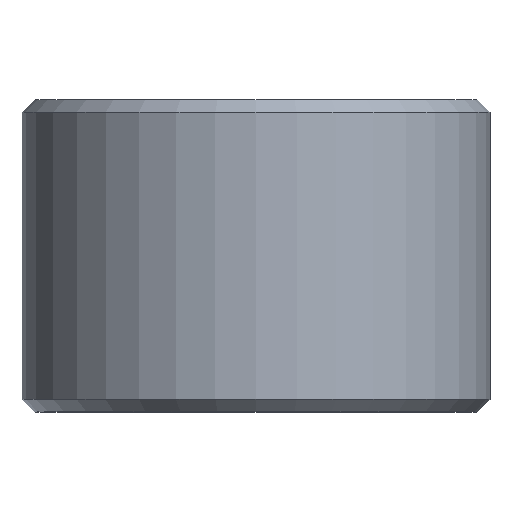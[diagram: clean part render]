
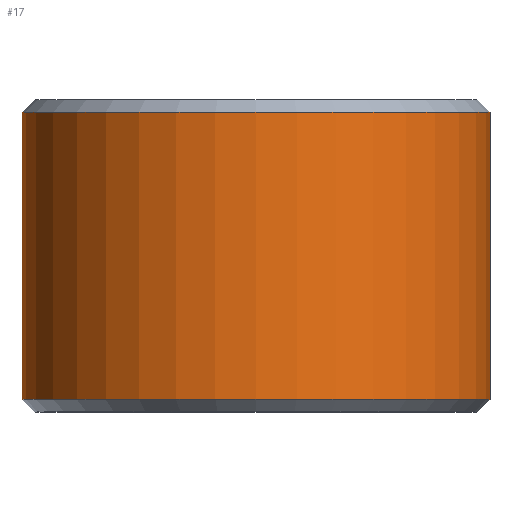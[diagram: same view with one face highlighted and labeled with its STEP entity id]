
A CAD part, top view. The second image highlights one B-rep face of the part: STEP entity #17.
In plain terms, the highlighted cylindrical face has radius 7.5 mm (diameter 15 mm), a full revolution.
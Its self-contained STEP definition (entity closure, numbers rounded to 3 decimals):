
#17 = ADVANCED_FACE('',(#18),#32,.T.);
#18 = FACE_BOUND('',#19,.T.);
#19 = EDGE_LOOP('',(#20,#50,#77,#78));
#20 = ORIENTED_EDGE('',*,*,#21,.T.);
#21 = EDGE_CURVE('',#22,#24,#26,.T.);
#22 = VERTEX_POINT('',#23);
#23 = CARTESIAN_POINT('',(-32.,16.4,-2.5));
#24 = VERTEX_POINT('',#25);
#25 = CARTESIAN_POINT('',(-32.,25.6,-2.5));
#26 = SEAM_CURVE('',#27,(#31,#43),.PCURVE_S1.);
#27 = LINE('',#28,#29);
#28 = CARTESIAN_POINT('',(-32.,16.,-2.5));
#29 = VECTOR('',#30,1.);
#30 = DIRECTION('',(0.,1.,0.));
#31 = PCURVE('',#32,#37);
#32 = CYLINDRICAL_SURFACE('',#33,7.5);
#33 = AXIS2_PLACEMENT_3D('',#34,#35,#36);
#34 = CARTESIAN_POINT('',(-32.,16.,-10.));
#35 = DIRECTION('',(0.,1.,0.));
#36 = DIRECTION('',(0.,-0.,1.));
#37 = DEFINITIONAL_REPRESENTATION('',(#38),#42);
#38 = LINE('',#39,#40);
#39 = CARTESIAN_POINT('',(6.283,-0.));
#40 = VECTOR('',#41,1.);
#41 = DIRECTION('',(0.,1.));
#42 = ( GEOMETRIC_REPRESENTATION_CONTEXT(2) 
PARAMETRIC_REPRESENTATION_CONTEXT() REPRESENTATION_CONTEXT('2D SPACE',''
  ) );
#43 = PCURVE('',#32,#44);
#44 = DEFINITIONAL_REPRESENTATION('',(#45),#49);
#45 = LINE('',#46,#47);
#46 = CARTESIAN_POINT('',(0.,-0.));
#47 = VECTOR('',#48,1.);
#48 = DIRECTION('',(0.,1.));
#49 = ( GEOMETRIC_REPRESENTATION_CONTEXT(2) 
PARAMETRIC_REPRESENTATION_CONTEXT() REPRESENTATION_CONTEXT('2D SPACE',''
  ) );
#50 = ORIENTED_EDGE('',*,*,#51,.F.);
#51 = EDGE_CURVE('',#24,#24,#52,.T.);
#52 = SURFACE_CURVE('',#53,(#58,#65),.PCURVE_S1.);
#53 = CIRCLE('',#54,7.5);
#54 = AXIS2_PLACEMENT_3D('',#55,#56,#57);
#55 = CARTESIAN_POINT('',(-32.,25.6,-10.));
#56 = DIRECTION('',(0.,1.,0.));
#57 = DIRECTION('',(0.,-0.,1.));
#58 = PCURVE('',#32,#59);
#59 = DEFINITIONAL_REPRESENTATION('',(#60),#64);
#60 = LINE('',#61,#62);
#61 = CARTESIAN_POINT('',(0.,9.6));
#62 = VECTOR('',#63,1.);
#63 = DIRECTION('',(1.,0.));
#64 = ( GEOMETRIC_REPRESENTATION_CONTEXT(2) 
PARAMETRIC_REPRESENTATION_CONTEXT() REPRESENTATION_CONTEXT('2D SPACE',''
  ) );
#65 = PCURVE('',#66,#71);
#66 = CONICAL_SURFACE('',#67,7.5,0.785);
#67 = AXIS2_PLACEMENT_3D('',#68,#69,#70);
#68 = CARTESIAN_POINT('',(-32.,25.6,-10.));
#69 = DIRECTION('',(-0.,-1.,-0.));
#70 = DIRECTION('',(0.,0.,1.));
#71 = DEFINITIONAL_REPRESENTATION('',(#72),#76);
#72 = LINE('',#73,#74);
#73 = CARTESIAN_POINT('',(-0.,-0.));
#74 = VECTOR('',#75,1.);
#75 = DIRECTION('',(-1.,-0.));
#76 = ( GEOMETRIC_REPRESENTATION_CONTEXT(2) 
PARAMETRIC_REPRESENTATION_CONTEXT() REPRESENTATION_CONTEXT('2D SPACE',''
  ) );
#77 = ORIENTED_EDGE('',*,*,#21,.F.);
#78 = ORIENTED_EDGE('',*,*,#79,.T.);
#79 = EDGE_CURVE('',#22,#22,#80,.T.);
#80 = SURFACE_CURVE('',#81,(#86,#93),.PCURVE_S1.);
#81 = CIRCLE('',#82,7.5);
#82 = AXIS2_PLACEMENT_3D('',#83,#84,#85);
#83 = CARTESIAN_POINT('',(-32.,16.4,-10.));
#84 = DIRECTION('',(0.,1.,0.));
#85 = DIRECTION('',(0.,-0.,1.));
#86 = PCURVE('',#32,#87);
#87 = DEFINITIONAL_REPRESENTATION('',(#88),#92);
#88 = LINE('',#89,#90);
#89 = CARTESIAN_POINT('',(0.,0.4));
#90 = VECTOR('',#91,1.);
#91 = DIRECTION('',(1.,0.));
#92 = ( GEOMETRIC_REPRESENTATION_CONTEXT(2) 
PARAMETRIC_REPRESENTATION_CONTEXT() REPRESENTATION_CONTEXT('2D SPACE',''
  ) );
#93 = PCURVE('',#94,#99);
#94 = CONICAL_SURFACE('',#95,7.5,0.785);
#95 = AXIS2_PLACEMENT_3D('',#96,#97,#98);
#96 = CARTESIAN_POINT('',(-32.,16.4,-10.));
#97 = DIRECTION('',(0.,1.,0.));
#98 = DIRECTION('',(0.,-0.,1.));
#99 = DEFINITIONAL_REPRESENTATION('',(#100),#104);
#100 = LINE('',#101,#102);
#101 = CARTESIAN_POINT('',(0.,-0.));
#102 = VECTOR('',#103,1.);
#103 = DIRECTION('',(1.,-0.));
#104 = ( GEOMETRIC_REPRESENTATION_CONTEXT(2) 
PARAMETRIC_REPRESENTATION_CONTEXT() REPRESENTATION_CONTEXT('2D SPACE',''
  ) );
